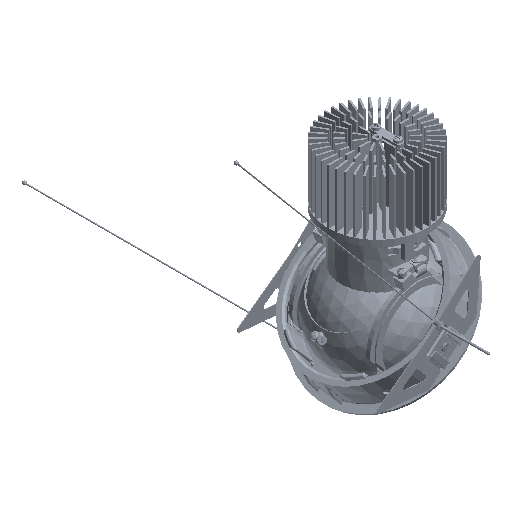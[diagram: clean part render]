
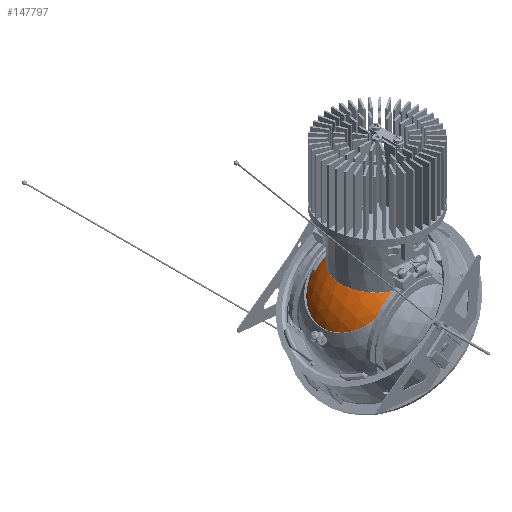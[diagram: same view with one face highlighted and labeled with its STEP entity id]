
A CAD part, isometric view. The second image highlights one B-rep face of the part: STEP entity #147797.
In plain terms, the highlighted spherical face has radius 43.5 mm.
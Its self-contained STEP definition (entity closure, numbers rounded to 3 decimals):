
#136218=CARTESIAN_POINT('',(23.751,-27.111,
24.354));
#136219=CARTESIAN_POINT('',(23.796,-27.111,
24.31));
#136220=CARTESIAN_POINT('',(23.885,-27.119,
24.215));
#136221=CARTESIAN_POINT('',(24.002,-27.153,
24.06));
#136222=CARTESIAN_POINT('',(24.101,-27.208,
23.899));
#136223=CARTESIAN_POINT('',(24.188,-27.286,
23.72));
#136224=CARTESIAN_POINT('',(24.259,-27.39,
23.528));
#136225=CARTESIAN_POINT('',(24.325,-27.56,
23.26));
#136226=CARTESIAN_POINT('',(24.341,-27.703,
23.073));
#136227=CARTESIAN_POINT('',(24.341,-27.801,
22.954));
#136247=CARTESIAN_POINT('',(0.,-27.111,
0.));
#136248=DIRECTION('',(0.,1.,0.));
#136249=DIRECTION('',(0.391,0.,0.921));
#136250=AXIS2_PLACEMENT_3D('',#136247,#136248,#136249);
#136309=CARTESIAN_POINT('',(13.284,-27.113,
31.316));
#136310=CARTESIAN_POINT('',(14.121,-26.703,
31.316));
#136311=CARTESIAN_POINT('',(15.762,-25.813,
31.316));
#136312=CARTESIAN_POINT('',(18.431,-23.98,
31.316));
#136313=CARTESIAN_POINT('',(20.536,-22.18,
31.316));
#136314=CARTESIAN_POINT('',(22.218,-20.484,
31.316));
#136315=CARTESIAN_POINT('',(23.569,-18.905,
31.316));
#136316=CARTESIAN_POINT('',(24.74,-17.342,
31.316));
#136317=CARTESIAN_POINT('',(25.831,-15.678,
31.316));
#136318=CARTESIAN_POINT('',(26.922,-13.732,
31.316));
#136319=CARTESIAN_POINT('',(27.974,-11.471,
31.316));
#136320=CARTESIAN_POINT('',(28.962,-8.696,
31.316));
#136321=CARTESIAN_POINT('',(29.631,-5.994,
31.316));
#136322=CARTESIAN_POINT('',(30.026,-3.472,
31.316));
#136323=CARTESIAN_POINT('',(30.204,-1.068,
31.316));
#136324=CARTESIAN_POINT('',(30.197,1.26,
31.316));
#136325=CARTESIAN_POINT('',(29.999,3.724,
31.316));
#136326=CARTESIAN_POINT('',(29.547,6.424,
31.316));
#136327=CARTESIAN_POINT('',(28.784,9.284,
31.316));
#136328=CARTESIAN_POINT('',(27.645,12.295,
31.316));
#136329=CARTESIAN_POINT('',(25.983,15.542,
31.316));
#136330=CARTESIAN_POINT('',(23.633,18.954,
31.316));
#136331=CARTESIAN_POINT('',(20.625,22.2,
31.316));
#136332=CARTESIAN_POINT('',(17.139,24.987,
31.316));
#136333=CARTESIAN_POINT('',(14.605,26.465,
31.316));
#136334=CARTESIAN_POINT('',(13.288,27.111,
31.316));
#136346=CARTESIAN_POINT('',(0.,-32.867,0.));
#136347=DIRECTION('',(0.,-1.,0.));
#136348=DIRECTION('',(0.992,0.,0.123));
#136349=AXIS2_PLACEMENT_3D('',#136346,#136347,#136348);
#136356=CARTESIAN_POINT('',(0.,27.111,
0.));
#136357=DIRECTION('',(0.,-1.,0.));
#136358=DIRECTION('',(0.698,0.,0.716));
#136359=AXIS2_PLACEMENT_3D('',#136356,#136357,#136358);
#136361=CARTESIAN_POINT('',(13.288,27.111,
31.316));
#137831=CARTESIAN_POINT('',(0.,32.867,0.));
#137832=DIRECTION('',(0.,-1.,0.));
#137833=DIRECTION('',(0.992,0.,0.123));
#137834=AXIS2_PLACEMENT_3D('',#137831,#137832,#137833);
#137846=CARTESIAN_POINT('',(0.,0.,3.504));
#137847=DIRECTION('',(0.,0.,1.));
#137848=DIRECTION('',(0.652,-0.758,0.));
#137849=AXIS2_PLACEMENT_3D('',#137846,#137847,#137848);
#137871=CARTESIAN_POINT('',(24.341,0.,0.));
#137872=DIRECTION('',(1.,0.,0.));
#137873=DIRECTION('',(0.,0.912,0.411));
#137874=AXIS2_PLACEMENT_3D('',#137871,#137872,#137873);
#137876=CARTESIAN_POINT('',(24.341,27.8,
22.955));
#137889=CARTESIAN_POINT('',(24.341,27.8,
22.955));
#137890=CARTESIAN_POINT('',(24.341,27.747,
23.02));
#137891=CARTESIAN_POINT('',(24.334,27.641,
23.154));
#137892=CARTESIAN_POINT('',(24.301,27.49,
23.367));
#137893=CARTESIAN_POINT('',(24.239,27.353,
23.591));
#137894=CARTESIAN_POINT('',(24.137,27.228,
23.839));
#137895=CARTESIAN_POINT('',(23.978,27.134,
24.105));
#137896=CARTESIAN_POINT('',(23.83,27.111,
24.277));
#137897=CARTESIAN_POINT('',(23.751,27.111,
24.354));
#139453=CARTESIAN_POINT('',(24.341,0.,0.));
#139454=DIRECTION('',(1.,0.,0.));
#139455=DIRECTION('',(0.,-0.771,0.637));
#139456=AXIS2_PLACEMENT_3D('',#139453,#139454,#139455);
#144019=CARTESIAN_POINT('',(23.751,27.111,
24.354));
#144021=VERTEX_POINT('',#144019);
#144023=VERTEX_POINT('',#137876);
#144025=CARTESIAN_POINT('',(24.341,32.867,
14.817));
#144026=VERTEX_POINT('',#144025);
#144030=CARTESIAN_POINT('',(28.28,-32.867,
3.504));
#144031=CARTESIAN_POINT('',(24.341,-32.867,
14.817));
#144032=VERTEX_POINT('',#144030);
#144033=VERTEX_POINT('',#144031);
#144034=CARTESIAN_POINT('',(24.341,-27.801,
22.954));
#144035=VERTEX_POINT('',#144034);
#144036=VERTEX_POINT('',#136218);
#144037=CARTESIAN_POINT('',(28.28,32.867,
3.504));
#144038=VERTEX_POINT('',#144037);
#145233=VERTEX_POINT('',#136361);
#145237=VERTEX_POINT('',#136309);
#147773=CARTESIAN_POINT('',(0.,0.,0.));
#147774=DIRECTION('',(-0.405,0.911,-0.081));
#147775=DIRECTION('',(-0.033,0.074,0.997));
#147776=AXIS2_PLACEMENT_3D('',#147773,#147774,#147775);
#147777=SPHERICAL_SURFACE('',#147776,43.5);
#147778=ORIENTED_EDGE('',*,*,#147764,.T.);
#147780=ORIENTED_EDGE('',*,*,#147779,.F.);
#147782=ORIENTED_EDGE('',*,*,#147781,.F.);
#147784=ORIENTED_EDGE('',*,*,#147783,.F.);
#147786=ORIENTED_EDGE('',*,*,#147785,.F.);
#147788=ORIENTED_EDGE('',*,*,#147787,.F.);
#147790=ORIENTED_EDGE('',*,*,#147789,.T.);
#147792=ORIENTED_EDGE('',*,*,#147791,.F.);
#147793=ORIENTED_EDGE('',*,*,#147550,.F.);
#147794=ORIENTED_EDGE('',*,*,#147565,.F.);
#147795=EDGE_LOOP('',(#147778,#147780,#147782,#147784,#147786,#147788,#147790,
#147792,#147793,#147794));
#147796=FACE_OUTER_BOUND('',#147795,.F.);
#147797=ADVANCED_FACE('',(#147796),#147777,.T.);
#136228=B_SPLINE_CURVE_WITH_KNOTS('',3,(#136218,#136219,#136220,#136221,#136222,
#136223,#136224,#136225,#136226,#136227),.UNSPECIFIED.,.F.,.F.,(4,1,1,1,1,1,1,
4),(0.,0.108,0.217,0.325,
0.433,0.575,0.717,1.),.UNSPECIFIED.);
#136251=CIRCLE('',#136250,34.018);
#136335=B_SPLINE_CURVE_WITH_KNOTS('',3,(#136309,#136310,#136311,#136312,#136313,
#136314,#136315,#136316,#136317,#136318,#136319,#136320,#136321,#136322,#136323,
#136324,#136325,#136326,#136327,#136328,#136329,#136330,#136331,#136332,#136333,
#136334),.UNSPECIFIED.,.F.,.F.,(4,1,1,1,1,1,1,1,1,1,1,1,1,1,1,1,1,1,1,1,1,1,1,
4),(0.,0.043,0.087,0.13,
0.174,0.217,0.261,0.304,
0.348,0.391,0.435,0.478,
0.522,0.565,0.609,0.652,
0.696,0.739,0.783,0.826,
0.87,0.913,0.957,1.),.UNSPECIFIED.);
#136350=CIRCLE('',#136349,28.496);
#136360=CIRCLE('',#136359,34.018);
#137835=CIRCLE('',#137834,28.496);
#137850=CIRCLE('',#137849,43.359);
#137875=CIRCLE('',#137874,36.052);
#137898=B_SPLINE_CURVE_WITH_KNOTS('',3,(#137889,#137890,#137891,#137892,#137893,
#137894,#137895,#137896,#137897),.UNSPECIFIED.,.F.,.F.,(4,1,1,1,1,1,4),(0.,
0.156,0.312,0.468,0.624,
0.812,1.),.UNSPECIFIED.);
#139457=CIRCLE('',#139456,36.052);
#147550=EDGE_CURVE('',#144036,#144035,#136228,.T.);
#147565=EDGE_CURVE('',#145237,#144036,#136251,.T.);
#147764=EDGE_CURVE('',#145237,#145233,#136335,.T.);
#147779=EDGE_CURVE('',#144021,#145233,#136360,.T.);
#147781=EDGE_CURVE('',#144023,#144021,#137898,.T.);
#147783=EDGE_CURVE('',#144026,#144023,#137875,.T.);
#147785=EDGE_CURVE('',#144038,#144026,#137835,.T.);
#147787=EDGE_CURVE('',#144032,#144038,#137850,.T.);
#147789=EDGE_CURVE('',#144032,#144033,#136350,.T.);
#147791=EDGE_CURVE('',#144035,#144033,#139457,.T.);
